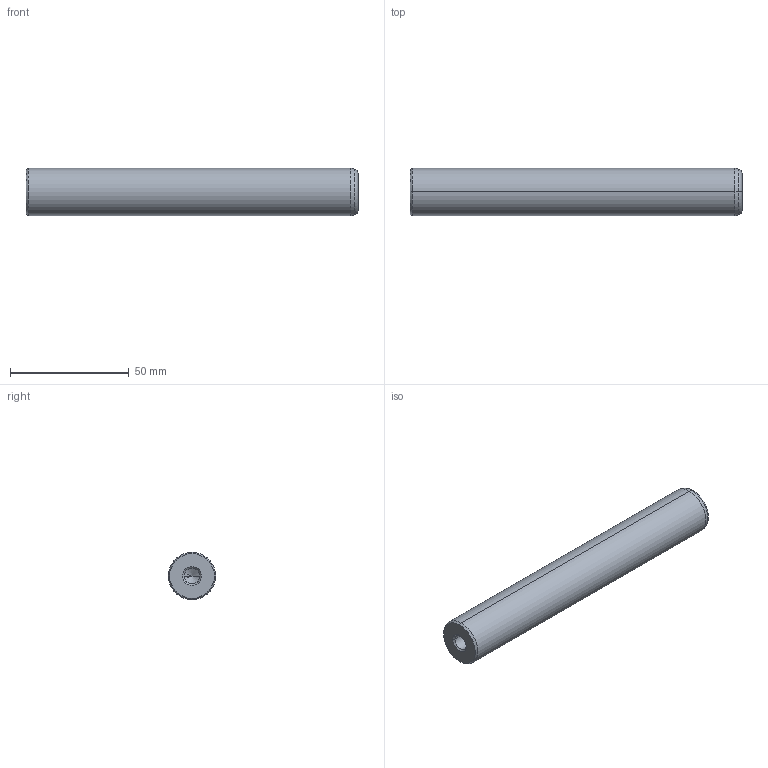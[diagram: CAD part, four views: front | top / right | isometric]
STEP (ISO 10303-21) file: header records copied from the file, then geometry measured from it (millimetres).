
FILE_DESCRIPTION(('CATIA V5 STEP Exchange'),'2;1');
FILE_NAME('C:\Users\Utente\Desktop\IO LAVORO\3D X SITO CF\X SITO\720\720-20x140.stp','2021-01-01T13:00:51+00:00',('none'),('none'),'CATIA Version 5 Release 20 GA (IN-10)','CATIA V5 STEP AP203','none');
FILE_SCHEMA(('CONFIG_CONTROL_DESIGN'));
Length unit declared in the file: millimetre
Products named in the file (1): 720-20x140
Bounding box: 140 x 20 x 20 mm (x, y, z)
Volume: 42145.2 mm3; surface area: 10318 mm2
Topology: 1 solids, 1 shells, 22 faces, 62 edges, 40 vertices
Faces by surface type: cone 12, cylinder 6, plane 2, torus 2
Entity records: 800 total; most frequent: CARTESIAN_POINT 223, ORIENTED_EDGE 116, DIRECTION 93, EDGE_CURVE 58, AXIS2_PLACEMENT_3D 54, VERTEX_POINT 40, CIRCLE 31, EDGE_LOOP 24
